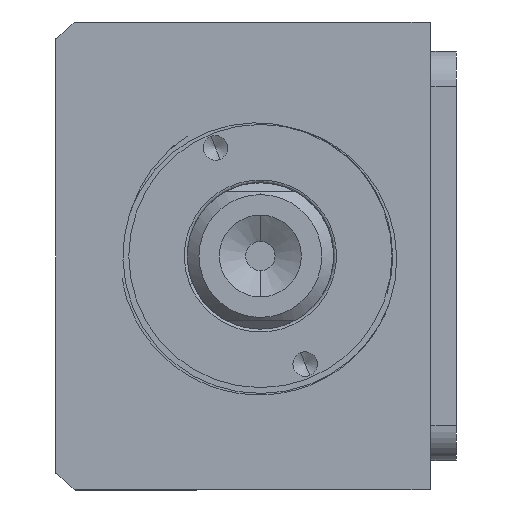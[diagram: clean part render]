
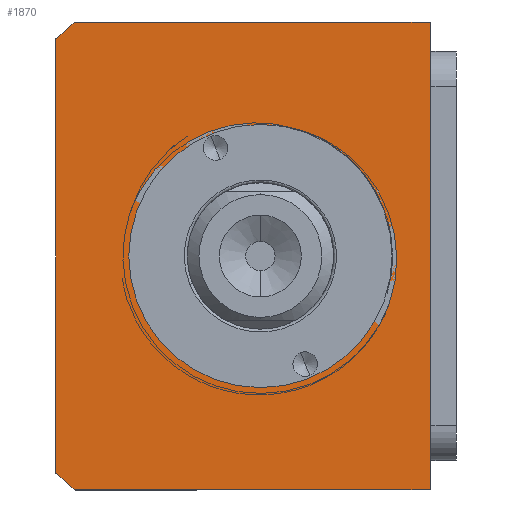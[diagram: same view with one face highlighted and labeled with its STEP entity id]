
A CAD part, front view. The second image highlights one B-rep face of the part: STEP entity #1870.
In plain terms, the highlighted planar face has unit normal (0, -1, 0) as drawn and (0, 0, 1) by its records, which use the part's own axes.
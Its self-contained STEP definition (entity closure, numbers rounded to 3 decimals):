
#146 = FACE_BOUND ( 'NONE', #2011, .T. ) ;
#210 = DIRECTION ( 'NONE',  ( 1., 0., 0. ) ) ;
#313 = ORIENTED_EDGE ( 'NONE', *, *, #6713, .T. ) ;
#449 = AXIS2_PLACEMENT_3D ( 'NONE', #9615, #4907, #210 ) ;
#516 = CARTESIAN_POINT ( 'NONE',  ( -40., -11.507, 115. ) ) ;
#581 = VECTOR ( 'NONE', #764, 1000. ) ;
#668 = VERTEX_POINT ( 'NONE', #2877 ) ;
#764 = DIRECTION ( 'NONE',  ( 0., -1., 0. ) ) ;
#925 = DIRECTION ( 'NONE',  ( 1., 0., 0. ) ) ;
#1029 = VERTEX_POINT ( 'NONE', #6650 ) ;
#1174 = PLANE ( 'NONE',  #4747 ) ;
#1211 = CARTESIAN_POINT ( 'NONE',  ( -22.5, -40.507, 115. ) ) ;
#1379 = ORIENTED_EDGE ( 'NONE', *, *, #7423, .T. ) ;
#1594 = VECTOR ( 'NONE', #925, 1000. ) ;
#1685 = DIRECTION ( 'NONE',  ( 0., 0., 1. ) ) ;
#1870 = ADVANCED_FACE ( 'NONE', ( #146, #2750 ), #1174, .T. ) ;
#1956 = VERTEX_POINT ( 'NONE', #2827 ) ;
#1965 = LINE ( 'NONE', #516, #7716 ) ;
#2011 = EDGE_LOOP ( 'NONE', ( #6239, #9381 ) ) ;
#2227 = VERTEX_POINT ( 'NONE', #6162 ) ;
#2289 = LINE ( 'NONE', #9789, #5968 ) ;
#2377 = EDGE_CURVE ( 'NONE', #1956, #2601, #7855, .T. ) ;
#2403 = DIRECTION ( 'NONE',  ( 0., 0., 1. ) ) ;
#2485 = ORIENTED_EDGE ( 'NONE', *, *, #3707, .T. ) ;
#2601 = VERTEX_POINT ( 'NONE', #4843 ) ;
#2750 = FACE_OUTER_BOUND ( 'NONE', #3061, .T. ) ;
#2827 = CARTESIAN_POINT ( 'NONE',  ( -37.094, -75.507, 115. ) ) ;
#2870 = EDGE_CURVE ( 'NONE', #2227, #6437, #5165, .T. ) ;
#2877 = CARTESIAN_POINT ( 'NONE',  ( -40., -11.507, 115. ) ) ;
#3061 = EDGE_LOOP ( 'NONE', ( #313, #3960, #9118, #8033, #1379, #2485 ) ) ;
#3532 = DIRECTION ( 'NONE',  ( 1., 0., 0. ) ) ;
#3707 = EDGE_CURVE ( 'NONE', #10042, #668, #1965, .T. ) ;
#3930 = AXIS2_PLACEMENT_3D ( 'NONE', #6383, #1685, #7170 ) ;
#3960 = ORIENTED_EDGE ( 'NONE', *, *, #8840, .T. ) ;
#4246 = EDGE_CURVE ( 'NONE', #6437, #2227, #4403, .T. ) ;
#4262 = LINE ( 'NONE', #5463, #581 ) ;
#4403 = CIRCLE ( 'NONE', #3930, 22.5 ) ;
#4662 = DIRECTION ( 'NONE',  ( 0., 0., 1. ) ) ;
#4747 = AXIS2_PLACEMENT_3D ( 'NONE', #9775, #8234, #3532 ) ;
#4843 = CARTESIAN_POINT ( 'NONE',  ( 37.094, -75.507, 115. ) ) ;
#4907 = DIRECTION ( 'NONE',  ( 0., 0., 1. ) ) ;
#5099 = DIRECTION ( 'NONE',  ( 0., 1., 0. ) ) ;
#5165 = CIRCLE ( 'NONE', #6611, 22.5 ) ;
#5243 = DIRECTION ( 'NONE',  ( -1., 0., 0. ) ) ;
#5463 = CARTESIAN_POINT ( 'NONE',  ( -40., -11.507, 115. ) ) ;
#5478 = EDGE_CURVE ( 'NONE', #2601, #1029, #5741, .T. ) ;
#5715 = CARTESIAN_POINT ( 'NONE',  ( 40., -11.507, 115. ) ) ;
#5741 = CIRCLE ( 'NONE', #9377, 51. ) ;
#5968 = VECTOR ( 'NONE', #5099, 1000. ) ;
#6162 = CARTESIAN_POINT ( 'NONE',  ( 22.5, -40.507, 115. ) ) ;
#6239 = ORIENTED_EDGE ( 'NONE', *, *, #2870, .F. ) ;
#6347 = CARTESIAN_POINT ( 'NONE',  ( -40., -72.145, 115. ) ) ;
#6383 = CARTESIAN_POINT ( 'NONE',  ( 0., -40.507, 115. ) ) ;
#6437 = VERTEX_POINT ( 'NONE', #1211 ) ;
#6611 = AXIS2_PLACEMENT_3D ( 'NONE', #9384, #4662, #10145 ) ;
#6650 = CARTESIAN_POINT ( 'NONE',  ( 40., -72.145, 115. ) ) ;
#6713 = EDGE_CURVE ( 'NONE', #668, #7759, #4262, .T. ) ;
#7083 = CARTESIAN_POINT ( 'NONE',  ( 0., -40.507, 115. ) ) ;
#7170 = DIRECTION ( 'NONE',  ( 1., 0., 0. ) ) ;
#7423 = EDGE_CURVE ( 'NONE', #1029, #10042, #2289, .T. ) ;
#7716 = VECTOR ( 'NONE', #5243, 1000. ) ;
#7759 = VERTEX_POINT ( 'NONE', #6347 ) ;
#7855 = LINE ( 'NONE', #7898, #1594 ) ;
#7881 = DIRECTION ( 'NONE',  ( 1., 0., 0. ) ) ;
#7898 = CARTESIAN_POINT ( 'NONE',  ( -40., -75.507, 115. ) ) ;
#8033 = ORIENTED_EDGE ( 'NONE', *, *, #5478, .T. ) ;
#8234 = DIRECTION ( 'NONE',  ( 0., 0., 1. ) ) ;
#8840 = EDGE_CURVE ( 'NONE', #7759, #1956, #9191, .T. ) ;
#9118 = ORIENTED_EDGE ( 'NONE', *, *, #2377, .T. ) ;
#9191 = CIRCLE ( 'NONE', #449, 51. ) ;
#9377 = AXIS2_PLACEMENT_3D ( 'NONE', #7083, #2403, #7881 ) ;
#9381 = ORIENTED_EDGE ( 'NONE', *, *, #4246, .F. ) ;
#9384 = CARTESIAN_POINT ( 'NONE',  ( 0., -40.507, 115. ) ) ;
#9615 = CARTESIAN_POINT ( 'NONE',  ( 0., -40.507, 115. ) ) ;
#9775 = CARTESIAN_POINT ( 'NONE',  ( 0., 0., 115. ) ) ;
#9789 = CARTESIAN_POINT ( 'NONE',  ( 40., -11.507, 115. ) ) ;
#10042 = VERTEX_POINT ( 'NONE', #5715 ) ;
#10145 = DIRECTION ( 'NONE',  ( 1., 0., 0. ) ) ;
